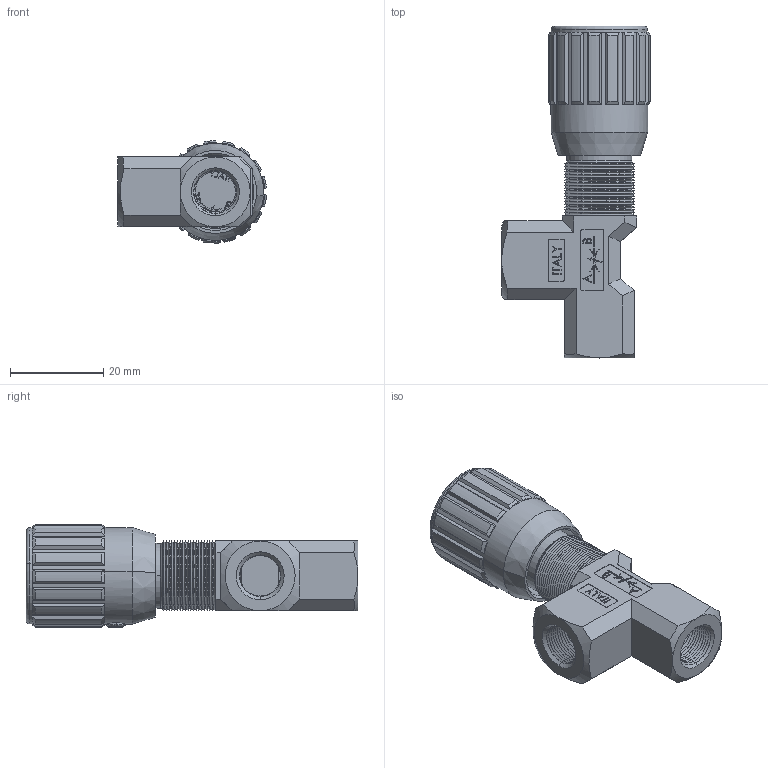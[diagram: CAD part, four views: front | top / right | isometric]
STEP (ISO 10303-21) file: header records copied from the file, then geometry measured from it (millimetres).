
FILE_DESCRIPTION (( 'STEP AP214' ), '1' );
FILE_NAME ('2252-2-18 VOLANTINO F-F.STEP', '2015-05-19T15:16:41', ( '' ), ( '' ), 'SwSTEP 2.0', 'SolidWorks 2014', '' );
FILE_SCHEMA (( 'AUTOMOTIVE_DESIGN' ));
Length unit declared in the file: millimetre
Products named in the file (1): 2252-2-18 VOLANTINO F-F
Bounding box: 31.97 x 71.3 x 22.07 mm (x, y, z)
Surface area: 7655.5 mm2 (no closed solid volume)
Topology: 0 solids, 24 shells, 549 faces, 1859 edges, 1285 vertices
Faces by surface type: plane 244, cone 196, cylinder 57, bspline 50, torus 2
Entity records: 29577 total; most frequent: CARTESIAN_POINT 7952, DIRECTION 3052, ORIENTED_EDGE 3050, EDGE_CURVE 1859, VERTEX_POINT 1285, LINE 1194, VECTOR 1194, AXIS2_PLACEMENT_3D 929
